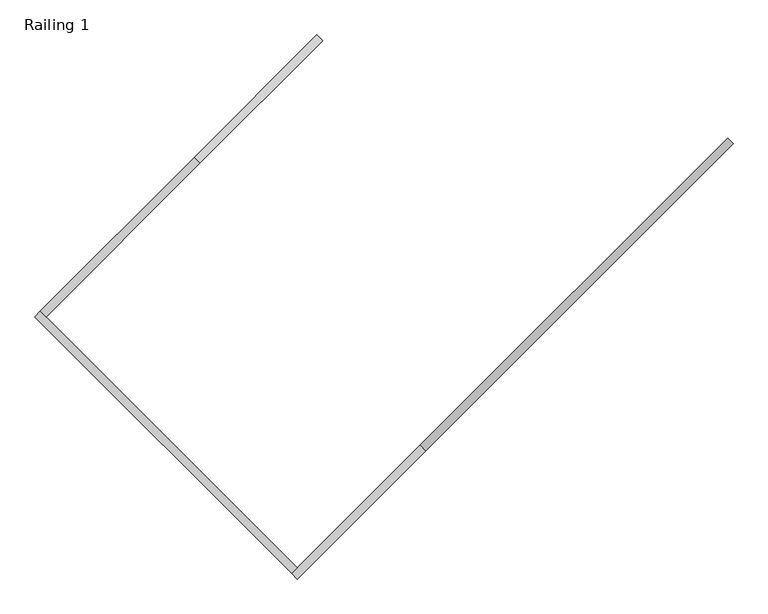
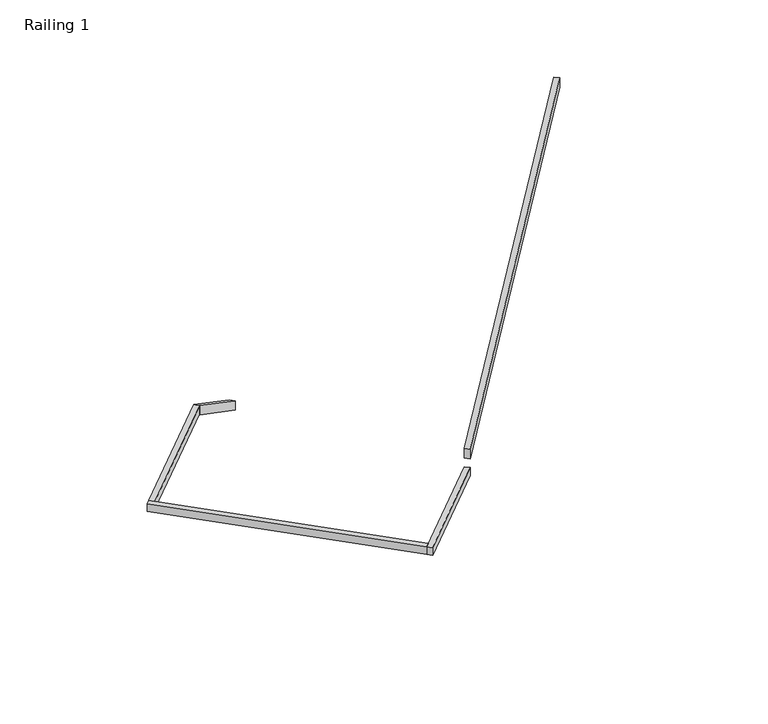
"""IFC4 building model written with IfcOpenShell, lengths in millimetres: railing geometry, Railing 1."""

from ifc_helpers import new_model, si_unit, frame, origin, place, context, project, spatial, polyline, outline, extrude, source, transform, mapped, element, save


def railing_1_d00421eb(model_context):
    return source(origin(), model_context, "Body", "SweptSolid", [
        extrude(outline(polyline([(-48.4909091, -76.2), (0.0, 0.0), (1324.7019287, 0.0), (1276.2110196, -76.2), (-48.4909091, -76.2)])), frame((-55678.5174145, 10503.1983476, 939.8), z_axis=(-0.7071067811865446, 0.7071067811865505, 0.0), x_axis=(-0.5965587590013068, -0.596558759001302, 0.5368754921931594)), (0.0, 0.0, 1.0), 50.8),
        extrude(outline(polyline([(-56504.7009777, 9748.8568334), (-56468.7799532, 9712.935809), (-57456.6081265, 8725.1076356), (-57492.529151, 8761.0286601), (-56504.7009777, 9748.8568334)])), frame((0.0, 0.0, 1574.8), z_axis=(0.0, 0.0, 1.0), x_axis=(1.0, 0.0, 0.0)), (0.0, 0.0, 1.0), 76.2),
        extrude(outline(polyline([(-57528.4501755, 8725.1076356), (-57492.529151, 8761.0286601), (-55840.4519965, 7108.9515056), (-55876.373021, 7073.0304811), (-57528.4501755, 8725.1076356)])), frame((0.0, 0.0, 1574.8), z_axis=(0.0, 0.0, 1.0), x_axis=(1.0, 0.0, 0.0)), (0.0, 0.0, 1.0), 76.2),
        extrude(outline(polyline([(-55840.4519965, 7037.1094566), (-55876.373021, 7073.0304811), (-55050.1894578, 7899.2140443), (-55014.2684334, 7863.2930198), (-55840.4519965, 7037.1094566)])), frame((0.0, 0.0, 1574.8), z_axis=(0.0, 0.0, 1.0), x_axis=(1.0, 0.0, 0.0)), (0.0, 0.0, 1.0), 76.2),
        extrude(outline(polyline([(48.4909091, -76.2), (0.0, 0.0), (3311.7548219, 0.0), (3360.245731, -76.2), (48.4909091, -76.2)])), frame((-55014.2684334, 7863.2930198, 1738.4794139), z_axis=(-0.7071067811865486, 0.7071067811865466, 0.0), x_axis=(0.5965587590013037, 0.5965587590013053, 0.5368754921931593)), (0.0, 0.0, 1.0), 50.8),
    ])


if __name__ == "__main__":
    model = new_model("IFC4")
    model_context = context("Model", 3, world=origin())
    ifc_project = project(units=[si_unit("LENGTHUNIT", "METRE", prefix="MILLI")], contexts=[model_context])
    site = spatial("IfcSite", under=ifc_project)
    building = spatial("IfcBuilding", under=site)
    placement = place(None, origin())
    railing_1_shape = railing_1_d00421eb(model_context)
    element("IfcRailing", 1, ObjectType="Railing 1", at=placement, inside=building, context=model_context, shape_type="MappedRepresentation", body=[
        mapped(railing_1_shape, transform((0.0, 0.0, 0.0), x_axis=(1.0, 0.0, 0.0), y_axis=(0.0, 1.0, 0.0), z_axis=(0.0, 0.0, 1.0))),
    ])
    save(model, "model.ifc")
